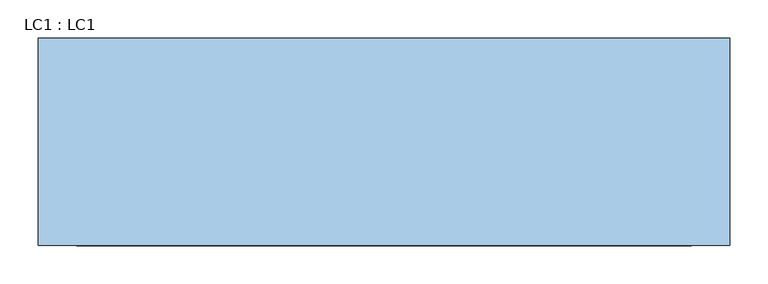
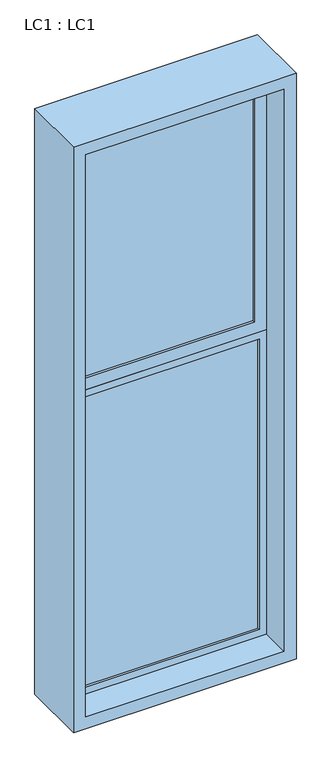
"""IFC4 building model written with IfcOpenShell, lengths in millimetres: window geometry, LC1 : LC1."""

from ifc_helpers import new_model, si_unit, frame, origin, place, context, project, spatial, polyline, outline, extrude, source, transform, mapped, element, save


def lc1_lc1_e150ab57(model_context):
    return source(origin(), model_context, "Body", "SweptSolid", [
        extrude(outline(polyline([(3400.0, 450.0), (3400.0, -450.0), (900.0, -450.0), (900.0, 450.0), (3400.0, 450.0)]), holes=[polyline([(3350.0, 400.0), (950.0, 400.0), (950.0, -400.0), (3350.0, -400.0), (3350.0, 400.0)])]), frame((0.0, -135.0, 0.0), z_axis=(0.0, 1.0, 0.0), x_axis=(0.0, 0.0, 1.0)), (0.0, 0.0, 1.0), 270.0),
        extrude(outline(polyline([(350.0, -5.2868922), (-350.0, -5.2868922), (-350.0, 4.7131078), (350.0, 4.7131078), (350.0, -5.2868922)])), frame((0.0, 0.0, 2300.0), z_axis=(0.0, 0.0, 1.0), x_axis=(1.0, 0.0, 0.0)), (0.0, 0.0, 1.0), 1000.0),
        extrude(outline(polyline([(370.0, -5.2868922), (-370.0, -5.2868922), (-370.0, 4.7131078), (370.0, 4.7131078), (370.0, -5.2868922)])), frame((0.0, 0.0, 980.0), z_axis=(0.0, 0.0, 1.0), x_axis=(1.0, 0.0, 0.0)), (0.0, 0.0, 1.0), 1240.0),
        extrude(outline(polyline([(3350.0, 400.0), (3350.0, -400.0), (2250.0, -400.0), (2250.0, 400.0), (3350.0, 400.0)]), holes=[polyline([(3300.0, 350.0), (2300.0, 350.0), (2300.0, -350.0), (3300.0, -350.0), (3300.0, 350.0)])]), frame((0.0, -15.0, 0.0), z_axis=(0.0, 1.0, 0.0), x_axis=(0.0, 0.0, 1.0)), (0.0, 0.0, 1.0), 30.0),
        extrude(outline(polyline([(2250.0, 400.0), (2250.0, -400.0), (950.0, -400.0), (950.0, 400.0), (2250.0, 400.0)]), holes=[polyline([(2220.0, 370.0), (980.0, 370.0), (980.0, -370.0), (2220.0, -370.0), (2220.0, 370.0)])]), frame((0.0, -15.0, 0.0), z_axis=(0.0, 1.0, 0.0), x_axis=(0.0, 0.0, 1.0)), (0.0, 0.0, 1.0), 30.0),
    ])


if __name__ == "__main__":
    model = new_model("IFC4")
    model_context = context("Model", 3, world=origin())
    ifc_project = project(units=[si_unit("LENGTHUNIT", "METRE", prefix="MILLI")], contexts=[model_context])
    site = spatial("IfcSite", under=ifc_project)
    building = spatial("IfcBuilding", under=site)
    placement = place(None, origin())
    lc1_lc1_shape = lc1_lc1_e150ab57(model_context)
    element("IfcWindow", 1, ObjectType="LC1 : LC1", at=placement, inside=building, context=model_context, shape_type="MappedRepresentation", body=[
        mapped(lc1_lc1_shape, transform((0.0, 0.0, 0.0), x_axis=(1.0, 0.0, 0.0), y_axis=(0.0, 1.0, 0.0), z_axis=(0.0, 0.0, 1.0))),
    ])
    save(model, "model.ifc")
